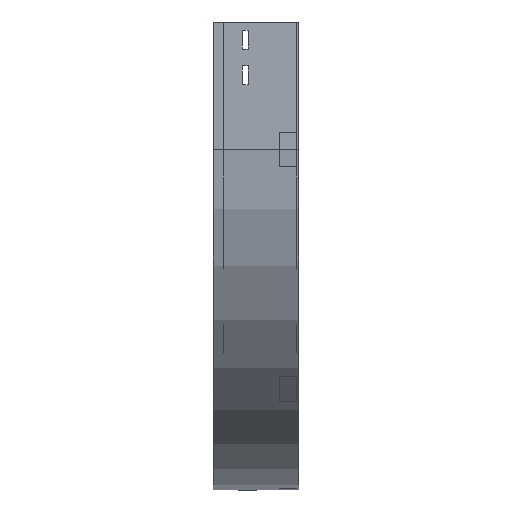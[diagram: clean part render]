
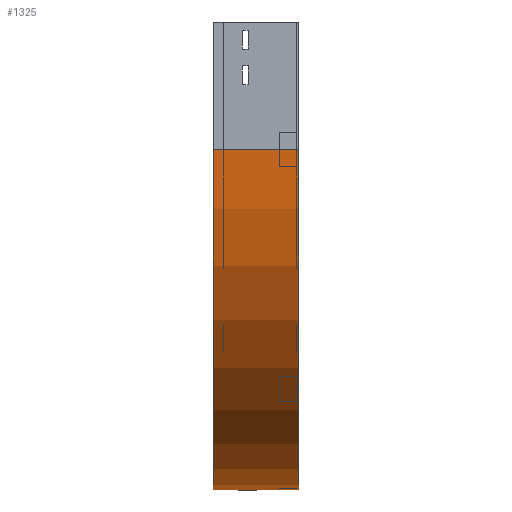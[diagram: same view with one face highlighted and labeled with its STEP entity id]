
A CAD part, left-side view. The second image highlights one B-rep face of the part: STEP entity #1325.
In plain terms, the highlighted cylindrical face has radius 400 mm (diameter 800 mm), a partial arc.
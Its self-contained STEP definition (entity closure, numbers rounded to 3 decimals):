
#10 = EDGE_CURVE ( 'NONE', #3330, #3120, #1147, .T. ) ;
#311 = DIRECTION ( 'NONE',  ( 0., -1., 0. ) ) ;
#344 = CARTESIAN_POINT ( 'NONE',  ( 400., 0., -150. ) ) ;
#367 = CARTESIAN_POINT ( 'NONE',  ( 400., 100., -150. ) ) ;
#658 = ORIENTED_EDGE ( 'NONE', *, *, #2721, .F. ) ;
#790 = CARTESIAN_POINT ( 'NONE',  ( 0., 0., -150. ) ) ;
#921 = EDGE_CURVE ( 'NONE', #1142, #3405, #1189, .T. ) ;
#1031 = CARTESIAN_POINT ( 'NONE',  ( 0., 100., -150. ) ) ;
#1084 = AXIS2_PLACEMENT_3D ( 'NONE', #1545, #2750, #1564 ) ;
#1142 = VERTEX_POINT ( 'NONE', #1031 ) ;
#1147 = CIRCLE ( 'NONE', #1084, 400. ) ;
#1178 = CARTESIAN_POINT ( 'NONE',  ( 400., 0., -550. ) ) ;
#1189 = CIRCLE ( 'NONE', #3457, 400. ) ;
#1325 = ADVANCED_FACE ( 'NONE', ( #3607 ), #1812, .T. ) ;
#1476 = EDGE_CURVE ( 'NONE', #3405, #3120, #3581, .T. ) ;
#1545 = CARTESIAN_POINT ( 'NONE',  ( 400., 0., -150. ) ) ;
#1564 = DIRECTION ( 'NONE',  ( -1., 0., 0. ) ) ;
#1812 = CYLINDRICAL_SURFACE ( 'NONE', #2078, 400. ) ;
#1996 = CARTESIAN_POINT ( 'NONE',  ( 400., 100., -550. ) ) ;
#2078 = AXIS2_PLACEMENT_3D ( 'NONE', #344, #2109, #3301 ) ;
#2109 = DIRECTION ( 'NONE',  ( 0., -1., 0. ) ) ;
#2129 = ORIENTED_EDGE ( 'NONE', *, *, #921, .T. ) ;
#2147 = DIRECTION ( 'NONE',  ( 0., -1., 0. ) ) ;
#2190 = LINE ( 'NONE', #3681, #3666 ) ;
#2721 = EDGE_CURVE ( 'NONE', #1142, #3330, #2190, .T. ) ;
#2750 = DIRECTION ( 'NONE',  ( 0., -1., 0. ) ) ;
#2762 = CARTESIAN_POINT ( 'NONE',  ( 400., 0., -550. ) ) ;
#2930 = ORIENTED_EDGE ( 'NONE', *, *, #10, .F. ) ;
#3011 = VECTOR ( 'NONE', #311, 1000. ) ;
#3120 = VERTEX_POINT ( 'NONE', #2762 ) ;
#3131 = ORIENTED_EDGE ( 'NONE', *, *, #1476, .T. ) ;
#3278 = EDGE_LOOP ( 'NONE', ( #2930, #658, #2129, #3131 ) ) ;
#3301 = DIRECTION ( 'NONE',  ( 0., 0., -1. ) ) ;
#3330 = VERTEX_POINT ( 'NONE', #790 ) ;
#3405 = VERTEX_POINT ( 'NONE', #1996 ) ;
#3457 = AXIS2_PLACEMENT_3D ( 'NONE', #367, #2147, #3626 ) ;
#3581 = LINE ( 'NONE', #1178, #3011 ) ;
#3607 = FACE_OUTER_BOUND ( 'NONE', #3278, .T. ) ;
#3626 = DIRECTION ( 'NONE',  ( -1., 0., 0. ) ) ;
#3666 = VECTOR ( 'NONE', #3718, 1000. ) ;
#3681 = CARTESIAN_POINT ( 'NONE',  ( 0., 0., -150. ) ) ;
#3718 = DIRECTION ( 'NONE',  ( 0., -1., 0. ) ) ;
